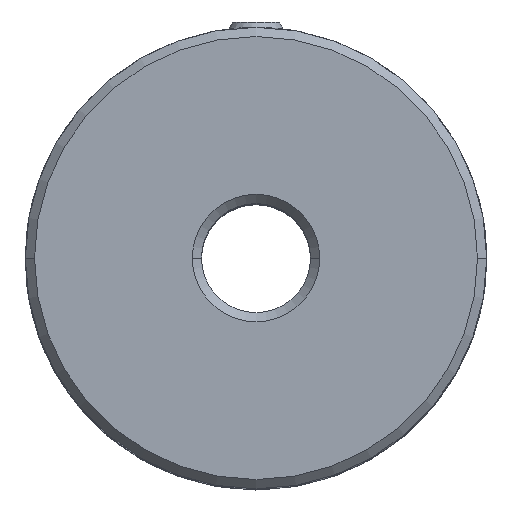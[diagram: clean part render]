
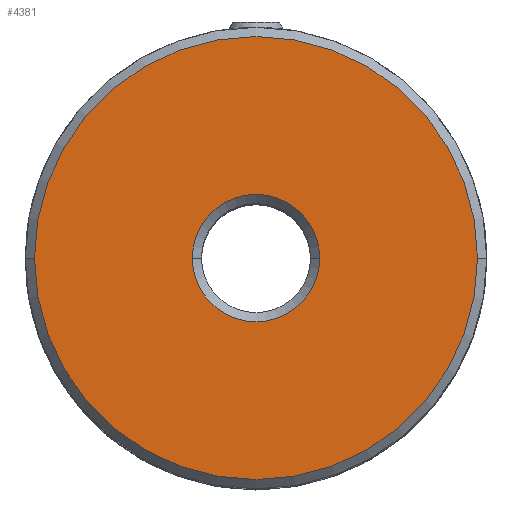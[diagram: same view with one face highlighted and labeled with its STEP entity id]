
A CAD part, top view. The second image highlights one B-rep face of the part: STEP entity #4381.
In plain terms, the highlighted planar face has unit normal (0, 0, 1).
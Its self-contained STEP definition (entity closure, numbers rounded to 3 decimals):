
#1295=CARTESIAN_POINT('',(35.475,24.825,-26.061));
#1296=DIRECTION('',(0.,0.,1.));
#1297=DIRECTION('',(-1.,0.,0.));
#1298=AXIS2_PLACEMENT_3D('',#1295,#1296,#1297);
#1300=CARTESIAN_POINT('',(35.475,24.825,-26.061));
#1301=DIRECTION('',(0.,0.,-1.));
#1302=DIRECTION('',(-1.,0.,0.));
#1303=AXIS2_PLACEMENT_3D('',#1300,#1301,#1302);
#1305=CARTESIAN_POINT('',(35.475,24.825,-26.061));
#1306=DIRECTION('',(0.,0.,-1.));
#1307=DIRECTION('',(1.,0.,0.));
#1308=AXIS2_PLACEMENT_3D('',#1305,#1306,#1307);
#1314=CARTESIAN_POINT('',(35.475,24.825,-26.061));
#1315=DIRECTION('',(0.,0.,1.));
#1316=DIRECTION('',(1.,0.,0.));
#1317=AXIS2_PLACEMENT_3D('',#1314,#1315,#1316);
#2036=CARTESIAN_POINT('',(41.571,24.825,-26.061));
#2037=CARTESIAN_POINT('',(29.379,24.825,-26.061));
#2038=VERTEX_POINT('',#2036);
#2039=VERTEX_POINT('',#2037);
#2040=CARTESIAN_POINT('',(33.721,24.825,-26.061));
#2041=CARTESIAN_POINT('',(37.229,24.825,-26.061));
#2042=VERTEX_POINT('',#2040);
#2043=VERTEX_POINT('',#2041);
#4365=CARTESIAN_POINT('',(35.475,24.825,-26.061));
#4366=DIRECTION('',(0.,0.,1.));
#4367=DIRECTION('',(0.707,-0.707,0.));
#4368=AXIS2_PLACEMENT_3D('',#4365,#4366,#4367);
#4369=PLANE('',#4368);
#4371=ORIENTED_EDGE('',*,*,#4370,.F.);
#4372=ORIENTED_EDGE('',*,*,#4348,.F.);
#4373=EDGE_LOOP('',(#4371,#4372));
#4374=FACE_OUTER_BOUND('',#4373,.F.);
#4376=ORIENTED_EDGE('',*,*,#4375,.F.);
#4378=ORIENTED_EDGE('',*,*,#4377,.F.);
#4379=EDGE_LOOP('',(#4376,#4378));
#4380=FACE_BOUND('',#4379,.F.);
#1299=CIRCLE('',#1298,6.096);
#1304=CIRCLE('',#1303,1.754);
#1309=CIRCLE('',#1308,1.754);
#1318=CIRCLE('',#1317,6.096);
#4348=EDGE_CURVE('',#2039,#2038,#1299,.T.);
#4370=EDGE_CURVE('',#2038,#2039,#1318,.T.);
#4375=EDGE_CURVE('',#2042,#2043,#1304,.T.);
#4377=EDGE_CURVE('',#2043,#2042,#1309,.T.);
#4381=ADVANCED_FACE('',(#4374,#4380),#4369,.T.);
